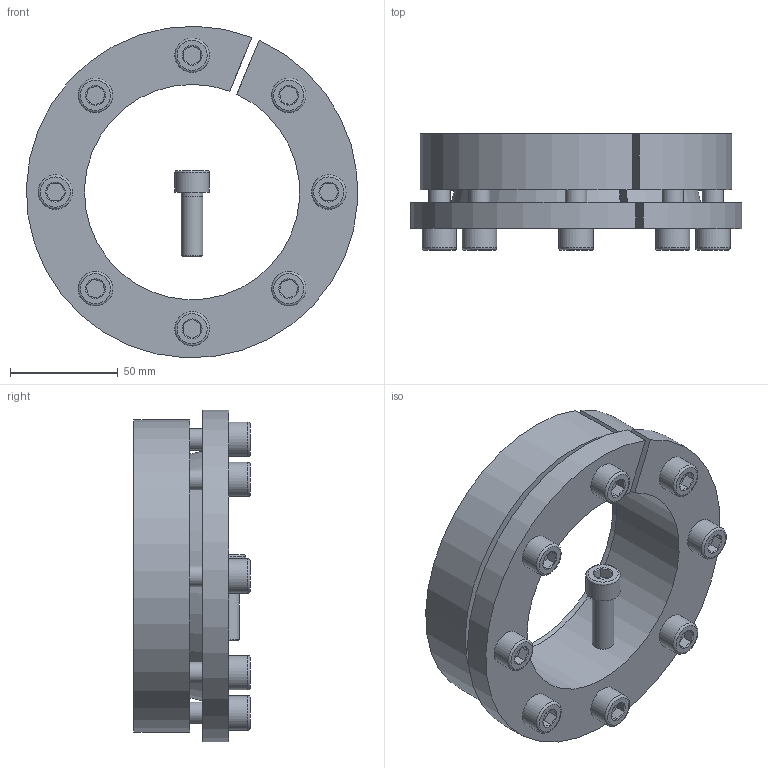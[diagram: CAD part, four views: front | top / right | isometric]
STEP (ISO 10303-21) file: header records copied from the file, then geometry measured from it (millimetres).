
FILE_DESCRIPTION( ( 'Unknown' ), '1' );
FILE_NAME( 'C:/Dokumente und Einstellungen/Sven/Desktop/homepage/cad - homepage/KBS16/KBS 16 - 100 x 145.stp', 'Unknown', ( 'Unknown' ), ( 'Unknown' ), 'XStep 1.0', 'Unknown', ' ' );
FILE_SCHEMA( ( 'automotive_design' ) );
Length unit declared in the file: millimetre
Products named in the file (3): Assem1; KBS 16 - 100 x 145; ISO EN DIN 4762 M10x30
Bounding box: 153.82 x 54 x 153.9 mm (x, y, z)
Volume: 718734.3 mm3; surface area: 170207 mm2
Topology: 11 solids, 11 shells, 281 faces, 557 edges, 334 vertices
Faces by surface type: plane 122, cylinder 74, cone 67, torus 18
Full cylindrical faces by diameter (mm): 9 x9, 10 x50, 16 x9
Entity records: 1798 total; most frequent: CARTESIAN_POINT 293, DIRECTION 272, ORIENTED_EDGE 194, AXIS2_PLACEMENT_3D 122, EDGE_LOOP 112, EDGE_CURVE 97, FACE_OUTER_BOUND 75, VERTEX_POINT 75
